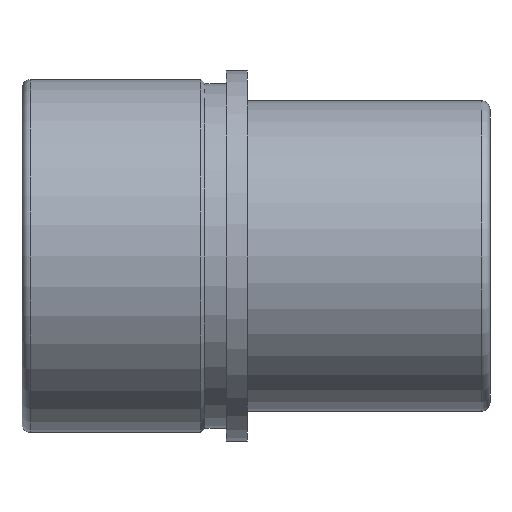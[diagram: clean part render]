
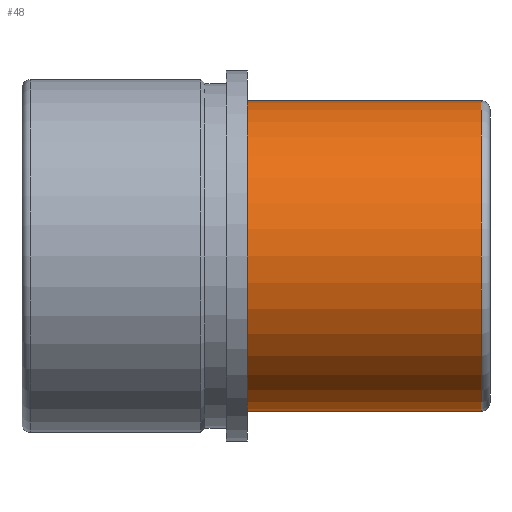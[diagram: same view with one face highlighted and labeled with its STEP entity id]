
A CAD part, front view. The second image highlights one B-rep face of the part: STEP entity #48.
In plain terms, the highlighted cylindrical face has radius 36.5 mm (diameter 73 mm), a full revolution.
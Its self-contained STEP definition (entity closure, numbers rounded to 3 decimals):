
#48 = ADVANCED_FACE( '', ( #103, #104 ), #105, .T. );
#103 = FACE_OUTER_BOUND( '', #166, .T. );
#104 = FACE_OUTER_BOUND( '', #167, .T. );
#105 = CYLINDRICAL_SURFACE( '', #168, 36.5 );
#166 = EDGE_LOOP( '', ( #233 ) );
#167 = EDGE_LOOP( '', ( #234 ) );
#168 = AXIS2_PLACEMENT_3D( '', #235, #236, #237 );
#233 = ORIENTED_EDGE( '', *, *, #299, .T. );
#234 = ORIENTED_EDGE( '', *, *, #300, .F. );
#235 = CARTESIAN_POINT( '', ( 57., 0., 0. ) );
#236 = DIRECTION( '', ( -1., 0., 0. ) );
#237 = DIRECTION( '', ( 0., 0., -1. ) );
#299 = EDGE_CURVE( '', #334, #334, #335, .T. );
#300 = EDGE_CURVE( '', #336, #336, #337, .T. );
#334 = VERTEX_POINT( '', #376 );
#335 = CIRCLE( '', #377, 36.5 );
#336 = VERTEX_POINT( '', #378 );
#337 = CIRCLE( '', #379, 36.5 );
#376 = CARTESIAN_POINT( '', ( 0., 0., -36.5 ) );
#377 = AXIS2_PLACEMENT_3D( '', #419, #420, #421 );
#378 = CARTESIAN_POINT( '', ( 55., 0., -36.5 ) );
#379 = AXIS2_PLACEMENT_3D( '', #422, #423, #424 );
#419 = CARTESIAN_POINT( '', ( 0., 0., 0. ) );
#420 = DIRECTION( '', ( 1., 0., 0. ) );
#421 = DIRECTION( '', ( 0., 0., -1. ) );
#422 = CARTESIAN_POINT( '', ( 55., 0., 0. ) );
#423 = DIRECTION( '', ( 1., 0., 0. ) );
#424 = DIRECTION( '', ( 0., 0., -1. ) );
